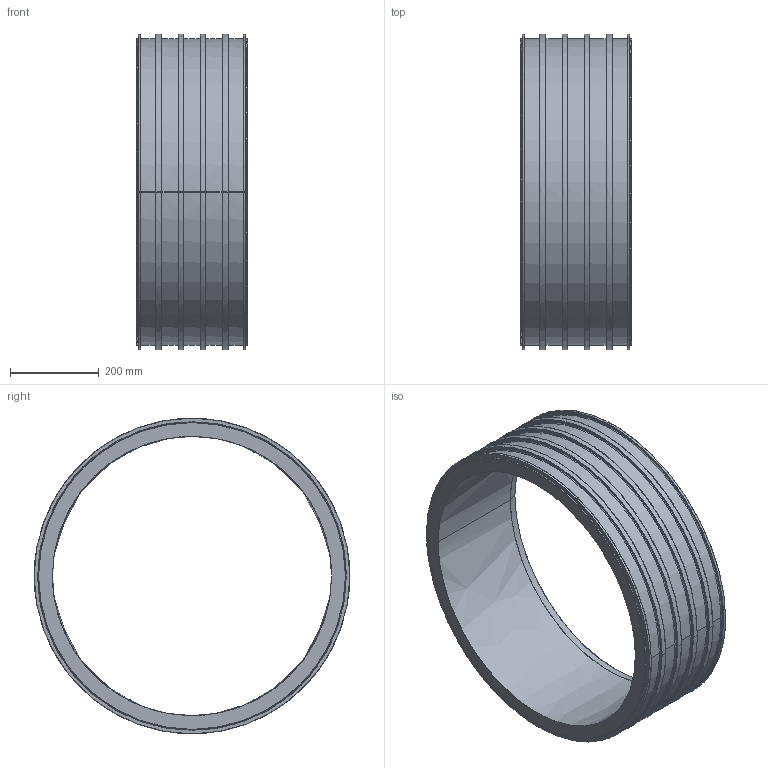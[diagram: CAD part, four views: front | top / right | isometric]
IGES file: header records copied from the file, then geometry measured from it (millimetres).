
Start section:  PTC IGES file: asfl_d560.igs
Global section: file name: asfl_d560.igs; native system: Pro/ENGINEER by Parametric Technology Corporation; preprocessor: 2011490; author: mtunjic; organization: Unknown; date: 20130730.083926; units: millimetre
Bounding box: 250 x 710 x 710 mm (x, y, z)
Surface area: 1501839.4 mm2 (no closed solid volume)
Topology: 0 solids, 0 shells, 138 faces, 552 edges, 552 vertices
Faces by surface type: bspline 138
